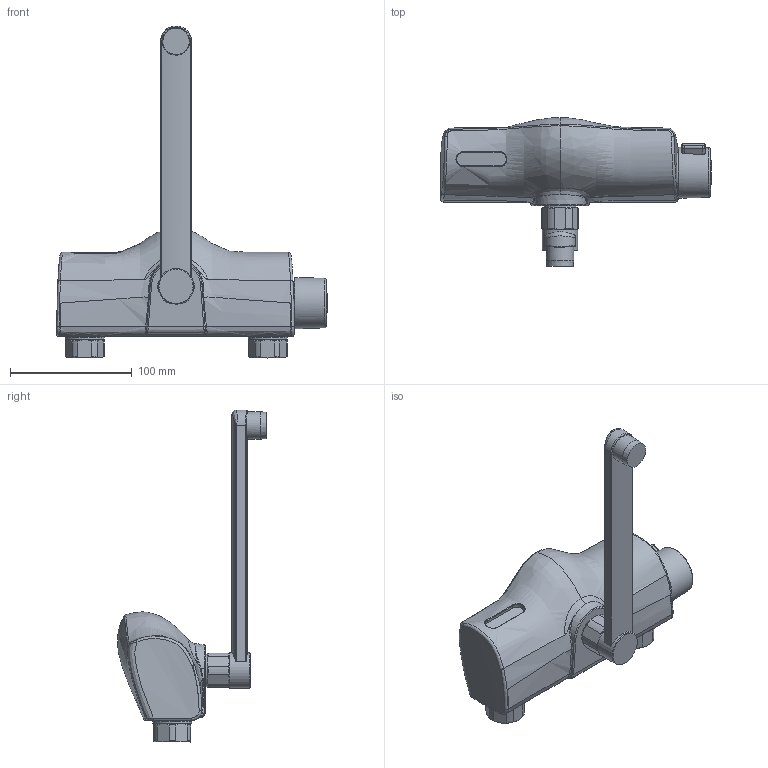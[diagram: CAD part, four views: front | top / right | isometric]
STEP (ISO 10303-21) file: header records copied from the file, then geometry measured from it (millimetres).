
FILE_DESCRIPTION (( 'STEP AP203' ), '1' );
FILE_NAME ('6179+64452201.STEP', '2017-03-09T05:56:18', ( '' ), ( '' ), 'SwSTEP 2.0', 'SolidWorks 2016', '' );
FILE_SCHEMA (( 'CONFIG_CONTROL_DESIGN' ));
Length unit declared in the file: millimetre
Products named in the file (1): 6179+64452201
Bounding box: 221.81 x 122.13 x 272.19 mm (x, y, z)
Volume: 880842.7 mm3; surface area: 85160.2 mm2
Topology: 1 solids, 1 shells, 230 faces, 539 edges, 336 vertices
Faces by surface type: bspline 74, plane 53, cylinder 53, cone 41, sphere 5, torus 4
Full cylindrical faces by diameter (mm): 22.471 x1, 24 x2, 26 x2, 26.44 x1, 29 x1, 32 x2, 33.326 x1
Entity records: 20609 total; most frequent: CARTESIAN_POINT 16083, ORIENTED_EDGE 1020, DIRECTION 717, EDGE_CURVE 510, VERTEX_POINT 330, AXIS2_PLACEMENT_3D 315, EDGE_LOOP 278, B_SPLINE_CURVE_WITH_KNOTS 262
